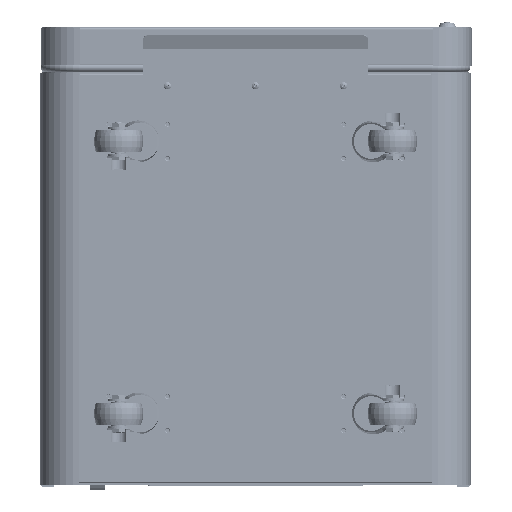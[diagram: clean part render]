
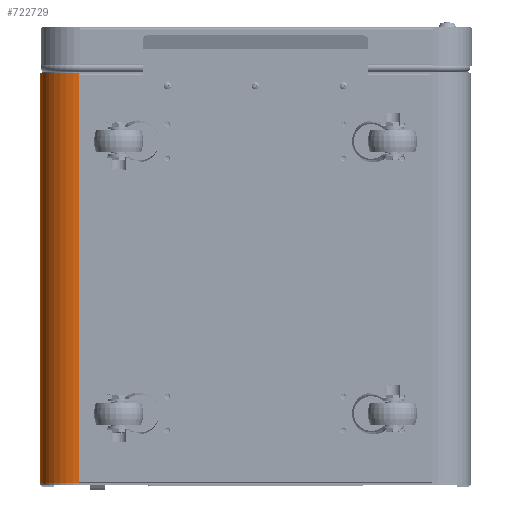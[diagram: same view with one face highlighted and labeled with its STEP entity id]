
A CAD part, front view. The second image highlights one B-rep face of the part: STEP entity #722729.
In plain terms, the highlighted cylindrical face has radius 50.8 mm (diameter 101.6 mm), a partial arc.
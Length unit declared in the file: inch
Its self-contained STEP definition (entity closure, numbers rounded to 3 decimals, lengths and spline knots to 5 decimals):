
#4195 = AXIS2_PLACEMENT_3D ( 'NONE', #921918, #451690, #846374 ) ;
#6282 = CARTESIAN_POINT ( 'NONE',  ( 12.59261, 8.82648, 22.08921 ) ) ;
#17643 = EDGE_CURVE ( 'NONE', #154755, #697858, #422944, .T. ) ;
#56944 = DIRECTION ( 'NONE',  ( 1., 0., 0. ) ) ;
#90936 = CARTESIAN_POINT ( 'NONE',  ( 12.59261, 8.82648, 22.08921 ) ) ;
#154755 = VERTEX_POINT ( 'NONE', #483078 ) ;
#174406 = DIRECTION ( 'NONE',  ( 0., 0., -1. ) ) ;
#213603 = AXIS2_PLACEMENT_3D ( 'NONE', #928516, #688367, #56944 ) ;
#228295 = ORIENTED_EDGE ( 'NONE', *, *, #848391, .F. ) ;
#246702 = CARTESIAN_POINT ( 'NONE',  ( 14.59261, 8.82648, 22.08921 ) ) ;
#260873 = EDGE_CURVE ( 'NONE', #486434, #861148, #376959, .T. ) ;
#264573 = ORIENTED_EDGE ( 'NONE', *, *, #17643, .T. ) ;
#306614 = CARTESIAN_POINT ( 'NONE',  ( 14.59261, 6.82648, 22.08921 ) ) ;
#334514 = DIRECTION ( 'NONE',  ( 0., 0., -1. ) ) ;
#356834 = ORIENTED_EDGE ( 'NONE', *, *, #460308, .F. ) ;
#376959 = LINE ( 'NONE', #90936, #696220 ) ;
#379681 = CYLINDRICAL_SURFACE ( 'NONE', #594169, 2. ) ;
#388703 = CARTESIAN_POINT ( 'NONE',  ( 12.59261, 8.82648, 1.14921 ) ) ;
#422944 = LINE ( 'NONE', #979965, #950822 ) ;
#429613 = ORIENTED_EDGE ( 'NONE', *, *, #260873, .T. ) ;
#451690 = DIRECTION ( 'NONE',  ( 0., 0., -1. ) ) ;
#460308 = EDGE_CURVE ( 'NONE', #695565, #697858, #585283, .T. ) ;
#483078 = CARTESIAN_POINT ( 'NONE',  ( 14.59261, 6.82648, 1.14921 ) ) ;
#486434 = VERTEX_POINT ( 'NONE', #6282 ) ;
#530756 = CARTESIAN_POINT ( 'NONE',  ( 14.59261, 6.82648, 22.08921 ) ) ;
#577615 = CIRCLE ( 'NONE', #213603, 2. ) ;
#585283 = LINE ( 'NONE', #306614, #757393 ) ;
#586673 = EDGE_LOOP ( 'NONE', ( #228295, #264573, #356834, #695906, #429613 ) ) ;
#594169 = AXIS2_PLACEMENT_3D ( 'NONE', #246702, #174406, #963707 ) ;
#688367 = DIRECTION ( 'NONE',  ( 0., 0., -1. ) ) ;
#694430 = DIRECTION ( 'NONE',  ( 0., 0., -1. ) ) ;
#695565 = VERTEX_POINT ( 'NONE', #530756 ) ;
#695906 = ORIENTED_EDGE ( 'NONE', *, *, #896880, .T. ) ;
#696220 = VECTOR ( 'NONE', #334514, 39.37008 ) ;
#697858 = VERTEX_POINT ( 'NONE', #711648 ) ;
#711648 = CARTESIAN_POINT ( 'NONE',  ( 14.59261, 6.82648, 1.23191 ) ) ;
#722729 = ADVANCED_FACE ( 'NONE', ( #993542 ), #379681, .T. ) ;
#757393 = VECTOR ( 'NONE', #694430, 39.37008 ) ;
#809534 = CIRCLE ( 'NONE', #4195, 2. ) ;
#846374 = DIRECTION ( 'NONE',  ( 1., 0., 0. ) ) ;
#848391 = EDGE_CURVE ( 'NONE', #154755, #861148, #577615, .T. ) ;
#861148 = VERTEX_POINT ( 'NONE', #388703 ) ;
#896880 = EDGE_CURVE ( 'NONE', #695565, #486434, #809534, .T. ) ;
#900871 = DIRECTION ( 'NONE',  ( 0., 0., 1. ) ) ;
#921918 = CARTESIAN_POINT ( 'NONE',  ( 14.59261, 8.82648, 22.08921 ) ) ;
#928516 = CARTESIAN_POINT ( 'NONE',  ( 14.59261, 8.82648, 1.14921 ) ) ;
#950822 = VECTOR ( 'NONE', #900871, 39.37008 ) ;
#963707 = DIRECTION ( 'NONE',  ( 1., 0., 0. ) ) ;
#979965 = CARTESIAN_POINT ( 'NONE',  ( 14.59261, 6.82648, 22.08921 ) ) ;
#993542 = FACE_OUTER_BOUND ( 'NONE', #586673, .T. ) ;
